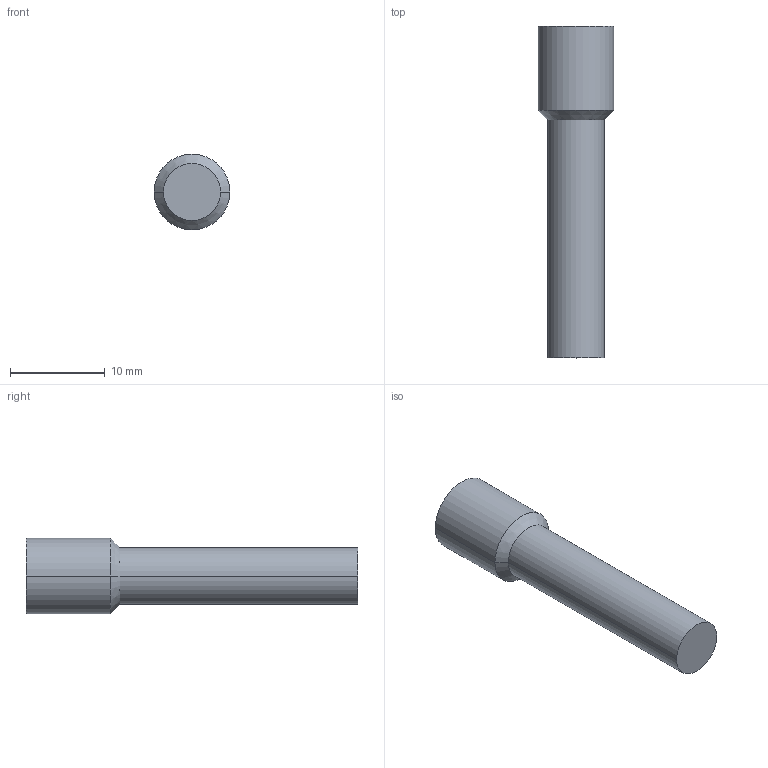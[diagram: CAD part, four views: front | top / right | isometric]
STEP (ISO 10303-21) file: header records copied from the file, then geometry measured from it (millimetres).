
FILE_DESCRIPTION( ( '' ), '1' );
FILE_NAME( 'G:/SMC狟婥/KPP-06.stp', '2023-03-08T05:54:00', ( '' ), ( '' ), ' ', ' ', ' ' );
FILE_SCHEMA( ( 'CONFIG_CONTROL_DESIGN' ) );
Length unit declared in the file: millimetre
Products named in the file (1): 1
Bounding box: 8 x 35 x 8 mm (x, y, z)
Volume: 1195.8 mm3; surface area: 806.4 mm2
Topology: 1 solids, 1 shells, 8 faces, 14 edges, 8 vertices
Faces by surface type: cylinder 4, cone 2, plane 2
Entity records: 238 total; most frequent: DIRECTION 40, CARTESIAN_POINT 31, ORIENTED_EDGE 28, AXIS2_PLACEMENT_3D 17, EDGE_CURVE 14, ADVANCED_FACE 8, FACE_OUTER_BOUND 8, EDGE_LOOP 8
